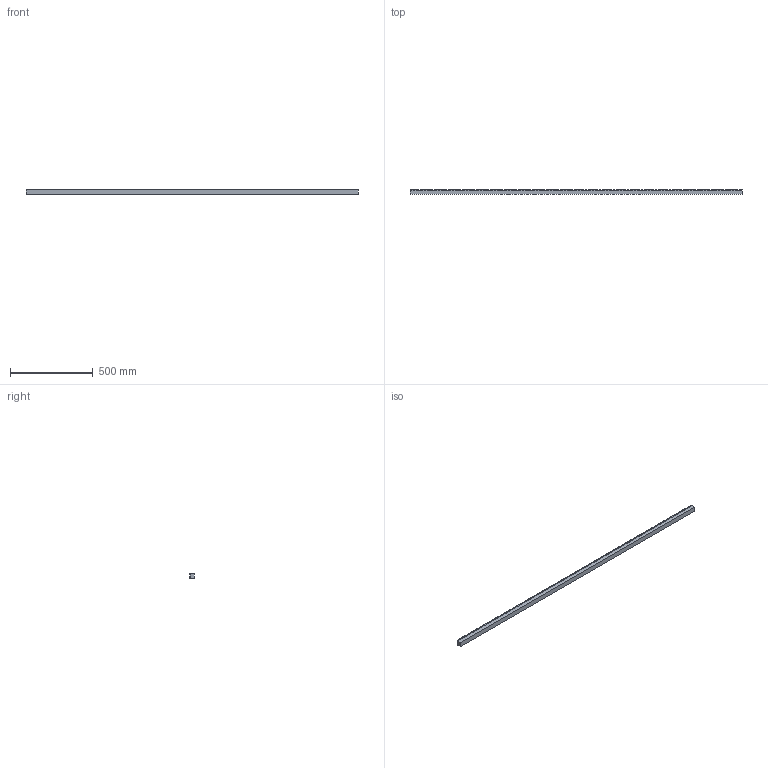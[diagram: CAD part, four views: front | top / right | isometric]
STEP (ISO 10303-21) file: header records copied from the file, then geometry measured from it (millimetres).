
FILE_DESCRIPTION(/* description */ (''),/* implementation_level */ '2;1');
FILE_NAME(/* name */ 'C:\Users\stagistaCAD\Desktop\30930200.stp',/* time_stamp */ '2018-06-14T15:17:26+02:00',/* author */ ('stagistacad'),/* organization */ (''),/* preprocessor_version */ 'ST-DEVELOPER v15.6',/* originating_system */ 'Autodesk Inventor 2015',/* authorisation */ '');
FILE_SCHEMA (('AUTOMOTIVE_DESIGN { 1 0 10303 214 3 1 1 }'));
Length unit declared in the file: millimetre
Products named in the file (1): 30930200
Bounding box: 2006.4 x 30 x 30 mm (x, y, z)
Volume: 1613661.6 mm3; surface area: 289975.5 mm2
Topology: 1 solids, 1 shells, 859 faces, 2571 edges, 1714 vertices
Faces by surface type: plane 859
Entity records: 28329 total; most frequent: CARTESIAN_POINT 5145, ORIENTED_EDGE 5142, DIRECTION 4291, LINE 2571, VECTOR 2571, EDGE_CURVE 2571, VERTEX_POINT 1714, AXIS2_PLACEMENT_3D 860
